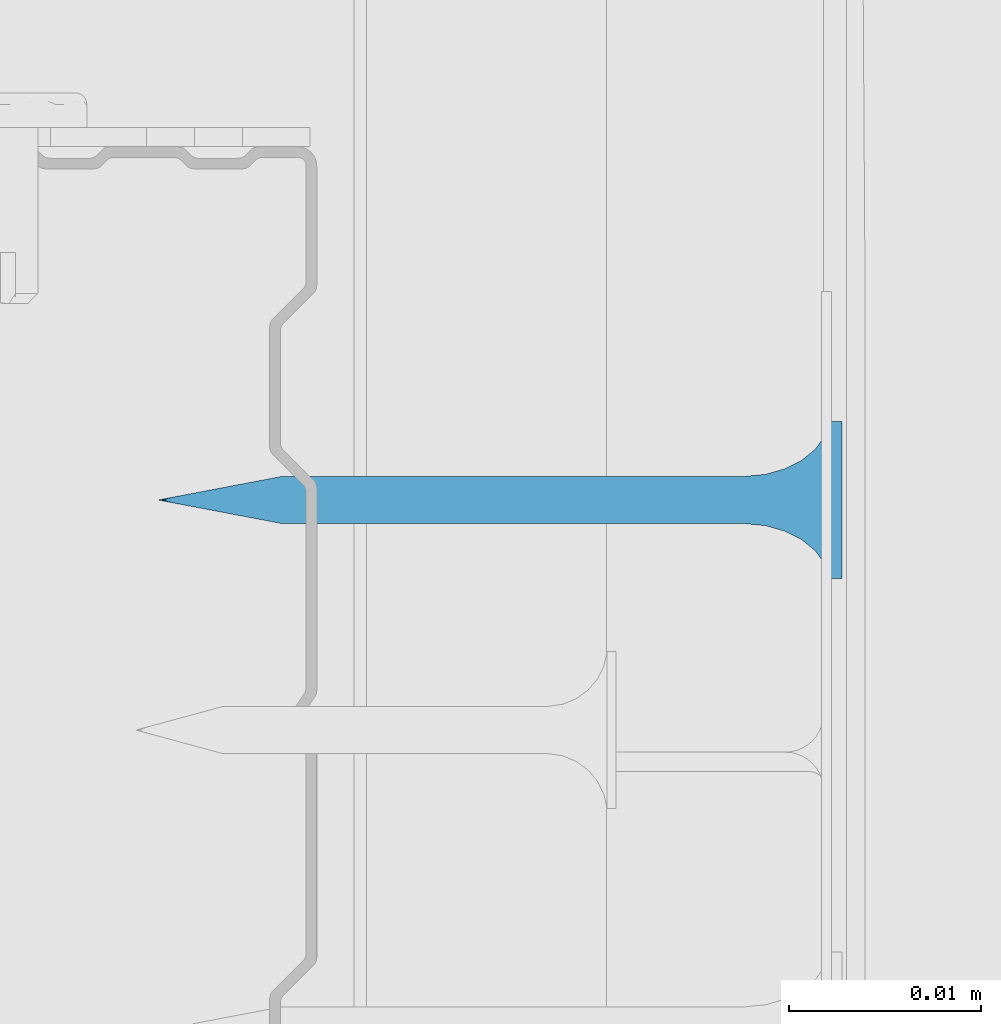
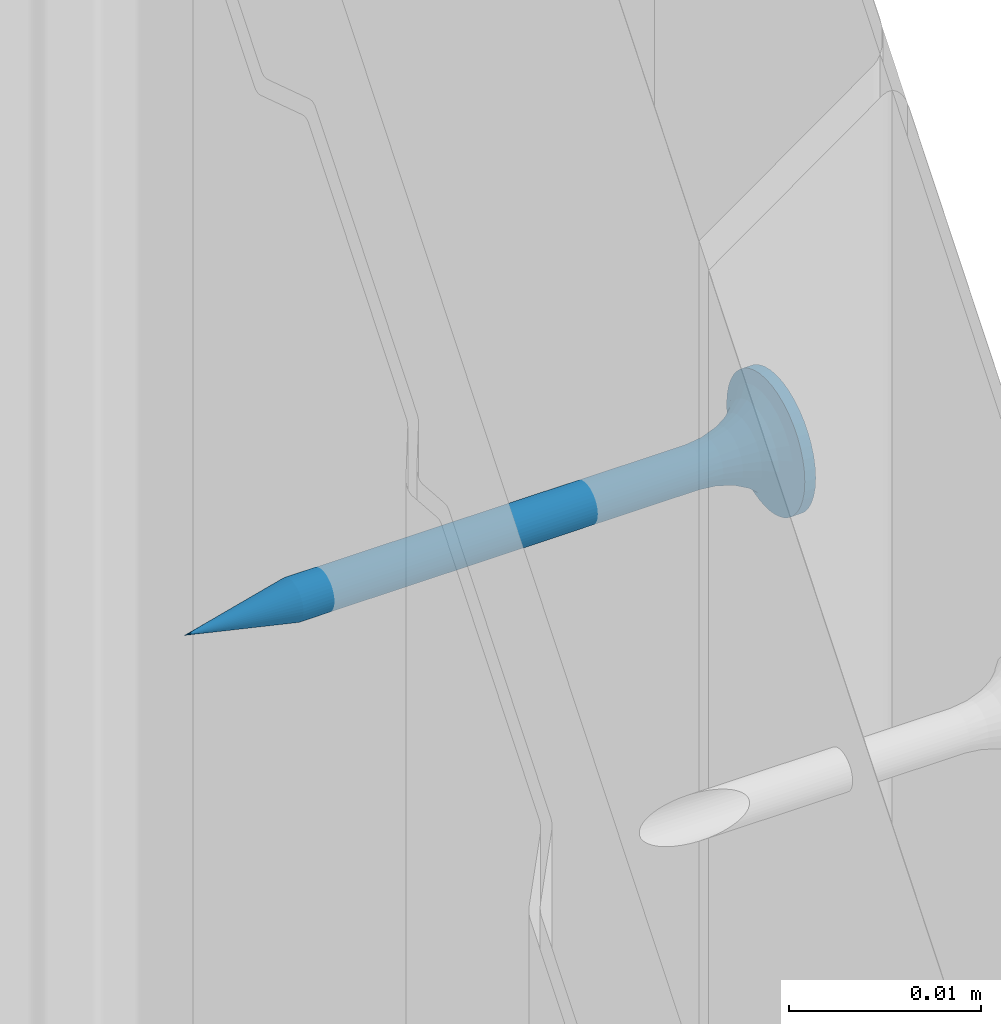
# One storey, part 19 of 67: 1 wall.
"""IFC2X3 building model written with IfcOpenShell, lengths in millimetres."""

from ifc_helpers import new_model, si_unit, frame, origin_with_axes, place, context, subcontext, project, spatial, faceted_brep, material, type_object, element, save


model = new_model("IFC2X3")

# Units and contexts
model_context = context("Model", 3, world=origin_with_axes())
body_context = subcontext(model_context, "Body", "Model", "MODEL_VIEW")
ifc_project = project(units=[si_unit("LENGTHUNIT", "METRE", prefix="MILLI"), si_unit("AREAUNIT", "SQUARE_METRE"), si_unit("VOLUMEUNIT", "CUBIC_METRE")], contexts=[model_context])

# Site, building, storey
site_placement = place(None, frame((2152.14102611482, 674.9749105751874, 57.61556563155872), z_axis=(0.0, 0.0, 1.0), x_axis=(-1.1102230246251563e-16, 1.0, 0.0)))
site = spatial("IfcSite", under=ifc_project, at=site_placement, Name="Default Site", CompositionType="ELEMENT")
building_placement = place(site_placement, origin_with_axes())
building = spatial("IfcBuilding", under=site, at=building_placement, Name="Default Building", CompositionType="ELEMENT")
storey_placement = place(building_placement, origin_with_axes())
storey = spatial("IfcBuildingStorey", under=building, at=storey_placement, Name="Default Building Storey", CompositionType="ELEMENT", Elevation=57.61556563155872)

# Wall
ifc_material = material(Name="Default")
wall_type = type_object("IfcWallType", Name="Wkręt RIGIPS TN 35#46", PredefinedType="NOTDEFINED")
wall_placement = place(storey_placement, frame((2987.097325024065, 6749.678129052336, 53.06211053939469), z_axis=(0.0, 0.0, 1.0), x_axis=(1.0, 0.0, 0.0)))
element("IfcWall", 1, at=wall_placement, inside=storey, type_object=wall_type, material=ifc_material, Name="Wkręt RIGIPS TN 35", context=body_context, shape_type="Brep", body=[
    faceted_brep([(-141.48753293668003, -4832.598052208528, 555.1619773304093), (-141.48753293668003, -4833.259714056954, 555.1619773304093), (-141.5377465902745, -4833.259714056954, 555.8000000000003), (-141.5377465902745, -4832.598052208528, 555.8000000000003), (-141.33812900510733, -4832.598052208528, 554.5396649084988), (-141.33812900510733, -4833.259714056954, 554.5396649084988), (-141.09321328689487, -4832.598052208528, 553.948386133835), (-141.09321328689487, -4833.259714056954, 553.948386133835), (-140.75881656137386, -4832.598052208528, 553.4027002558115), (-140.75881656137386, -4833.259714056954, 553.4027002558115), (-140.34317265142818, -4833.259714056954, 552.9160436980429), (-140.45417279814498, -4832.598052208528, 553.0314906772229), (-139.8565160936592, -4833.259714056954, 552.5003997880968), (-140.1080097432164, -4832.598052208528, 552.6986613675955), (-139.72512626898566, -4832.598052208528, 552.4088260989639), (-139.31083021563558, -4833.259714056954, 552.1660030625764), (-139.31083021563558, -4832.598052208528, 552.1660030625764), (-138.71955144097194, -4833.259714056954, 551.9210873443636), (-138.87086516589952, -4832.598052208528, 551.9735585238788), (-138.41133029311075, -4832.598052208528, 551.8341602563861), (-138.0972390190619, -4833.259714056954, 551.7716834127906), (-137.9385961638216, -4832.598052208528, 551.7497405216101), (-137.45921634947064, -4833.259714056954, 551.7214697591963), (-137.45921634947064, -4832.598052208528, 551.7214697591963), (-136.82119367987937, -4832.598052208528, 551.7716834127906), (-136.82119367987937, -4833.259714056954, 551.7716834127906), (-136.19888125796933, -4832.598052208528, 551.9210873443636), (-136.19888125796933, -4833.259714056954, 551.9210873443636), (-135.6076024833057, -4832.598052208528, 552.1660030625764), (-135.6076024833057, -4833.259714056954, 552.1660030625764), (-135.06191660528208, -4832.598052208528, 552.5003997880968), (-135.06191660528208, -4833.259714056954, 552.5003997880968), (-134.57526004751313, -4832.598052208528, 552.9160436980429), (-134.57526004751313, -4833.259714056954, 552.9160436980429), (-134.1596161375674, -4832.598052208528, 553.4027002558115), (-134.1596161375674, -4833.259714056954, 553.4027002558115), (-133.8252194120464, -4832.598052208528, 553.948386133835), (-133.8252194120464, -4833.259714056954, 553.948386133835), (-133.58030369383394, -4832.598052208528, 554.5396649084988), (-133.58030369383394, -4833.259714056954, 554.5396649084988), (-133.3806861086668, -4833.259714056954, 555.8000000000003), (-133.3806861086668, -4832.598052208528, 555.8000000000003), (-133.43089976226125, -4832.598052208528, 556.4380226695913), (-133.43089976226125, -4833.259714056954, 556.4380226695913), (-133.43089976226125, -4833.259714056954, 555.1619773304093), (-133.43089976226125, -4832.598052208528, 555.1619773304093), (-133.58030369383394, -4832.598052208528, 557.0603350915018), (-133.58030369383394, -4833.259714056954, 557.0603350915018), (-133.8252194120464, -4832.598052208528, 557.6516138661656), (-133.8252194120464, -4833.259714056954, 557.6516138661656), (-134.1596161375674, -4832.598052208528, 558.1972997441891), (-134.1596161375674, -4833.259714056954, 558.1972997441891), (-134.57526004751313, -4832.598052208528, 558.6839563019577), (-134.57526004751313, -4833.259714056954, 558.6839563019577), (-135.06191660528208, -4832.598052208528, 559.0996002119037), (-135.06191660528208, -4833.259714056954, 559.0996002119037), (-135.6076024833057, -4832.598052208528, 559.4339969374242), (-135.6076024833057, -4833.259714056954, 559.4339969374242), (-136.19888125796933, -4832.598052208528, 559.678912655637), (-136.19888125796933, -4833.259714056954, 559.678912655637), (-136.82119367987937, -4832.598052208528, 559.82831658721), (-136.82119367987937, -4833.259714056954, 559.82831658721), (-137.45921634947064, -4832.598052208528, 559.8785302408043), (-137.45921634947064, -4833.259714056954, 559.8785302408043), (-138.0972390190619, -4832.598052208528, 559.82831658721), (-138.0972390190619, -4833.259714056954, 559.82831658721), (-138.71955144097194, -4832.598052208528, 559.678912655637), (-138.71955144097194, -4833.259714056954, 559.678912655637), (-139.31083021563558, -4832.598052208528, 559.4339969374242), (-139.31083021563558, -4833.259714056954, 559.4339969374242), (-139.8565160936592, -4832.598052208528, 559.0996002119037), (-139.8565160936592, -4833.259714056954, 559.0996002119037), (-140.34317265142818, -4832.598052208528, 558.6839563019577), (-140.34317265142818, -4833.259714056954, 558.6839563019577), (-140.75881656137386, -4832.598052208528, 558.1972997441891), (-140.75881656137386, -4833.259714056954, 558.1972997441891), (-141.09321328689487, -4832.598052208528, 557.6516138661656), (-141.09321328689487, -4833.259714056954, 557.6516138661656), (-141.33812900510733, -4832.598052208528, 557.0603350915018), (-141.33812900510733, -4833.259714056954, 557.0603350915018), (-141.48753293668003, -4832.598052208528, 556.4380226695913), (-141.48753293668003, -4833.259714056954, 556.4380226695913), (-137.65172779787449, -4828.2062944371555, 554.5845305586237), (-137.45921634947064, -4828.2062944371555, 554.5693795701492), (-137.8060615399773, -4829.281368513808, 554.5055561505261), (-137.45921634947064, -4829.281368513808, 554.4598930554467), (-137.83949898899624, -4828.2062944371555, 554.6296104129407), (-138.12926982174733, -4829.281368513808, 554.6394333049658), (-138.01790634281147, -4828.2062944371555, 554.7035091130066), (-138.1825568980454, -4828.2062944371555, 554.8044072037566), (-138.40681506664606, -4829.281368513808, 554.8524012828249), (-138.3293964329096, -4828.2062944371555, 554.9298199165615), (-138.45480914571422, -4828.2062944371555, 555.0766594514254), (-138.6197830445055, -4829.281368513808, 555.1299465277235), (-138.5557072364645, -4828.2062944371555, 555.2413100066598), (-138.753660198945, -4829.281368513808, 555.4531548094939), (-138.62960593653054, -4828.2062944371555, 555.4197173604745), (-138.67468579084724, -4828.2062944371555, 555.6074885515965), (-138.79932329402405, -4829.281368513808, 555.7999999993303), (-138.68983677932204, -4828.2062944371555, 555.8000000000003), (-138.67468579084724, -4828.2062944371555, 555.9925114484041), (-138.753660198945, -4829.281368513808, 556.1468451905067), (-138.62960593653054, -4828.2062944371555, 556.1802826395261), (-138.6197830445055, -4829.281368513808, 556.4700534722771), (-138.5557072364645, -4828.2062944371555, 556.3586899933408), (-138.45480914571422, -4828.2062944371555, 556.5233405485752), (-138.40681506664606, -4829.281368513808, 556.7475987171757), (-138.3293964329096, -4828.2062944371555, 556.670180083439), (-138.1825568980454, -4828.2062944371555, 556.795592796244), (-138.12926982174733, -4829.281368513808, 556.9605666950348), (-138.01790634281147, -4828.2062944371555, 556.896490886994), (-137.8060615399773, -4829.281368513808, 557.0944438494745), (-137.83949898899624, -4828.2062944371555, 556.9703895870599), (-137.65172779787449, -4828.2062944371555, 557.0154694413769), (-137.45921634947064, -4829.281368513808, 557.1401069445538), (-137.45921634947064, -4828.2062944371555, 557.0306204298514), (-137.26670490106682, -4828.2062944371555, 557.0154694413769), (-137.11237115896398, -4829.281368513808, 557.0944438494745), (-137.07893370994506, -4828.2062944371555, 556.9703895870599), (-136.78916287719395, -4829.281368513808, 556.9605666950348), (-136.9005263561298, -4828.2062944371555, 556.896490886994), (-136.7358758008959, -4828.2062944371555, 556.795592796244), (-136.5116176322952, -4829.281368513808, 556.7475987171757), (-136.58903626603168, -4828.2062944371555, 556.670180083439), (-136.46362355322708, -4828.2062944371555, 556.5233405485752), (-136.2986496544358, -4829.281368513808, 556.4700534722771), (-136.36272546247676, -4828.2062944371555, 556.3586899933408), (-136.16477249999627, -4829.281368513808, 556.1468451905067), (-136.28882676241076, -4828.2062944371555, 556.1802826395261), (-136.24374690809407, -4828.2062944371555, 555.9925114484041), (-136.11910940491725, -4829.281368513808, 555.7999999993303), (-136.22859591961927, -4828.2062944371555, 555.8000000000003), (-136.24374690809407, -4828.2062944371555, 555.6074885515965), (-136.16477249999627, -4829.281368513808, 555.4531548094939), (-136.28882676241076, -4828.2062944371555, 555.4197173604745), (-136.2986496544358, -4829.281368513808, 555.1299465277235), (-136.36272546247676, -4828.2062944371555, 555.2413100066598), (-136.46362355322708, -4828.2062944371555, 555.0766594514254), (-136.5116176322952, -4829.281368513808, 554.8524012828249), (-136.58903626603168, -4828.2062944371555, 554.9298199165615), (-136.7358758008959, -4828.2062944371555, 554.8044072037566), (-136.78916287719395, -4829.281368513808, 554.6394333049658), (-136.9005263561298, -4828.2062944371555, 554.7035091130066), (-137.11237115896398, -4829.281368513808, 554.5055561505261), (-137.07893370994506, -4828.2062944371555, 554.6296104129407), (-137.26670490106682, -4828.2062944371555, 554.5845305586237), (-137.45921634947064, -4830.288222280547, 554.1737111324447), (-137.88013087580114, -4830.288222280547, 554.2291255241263), (-138.2723607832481, -4830.288222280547, 554.3915925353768), (-138.60917621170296, -4830.288222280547, 554.6500401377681), (-138.8676238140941, -4830.288222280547, 554.9868555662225), (-139.03009082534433, -4830.288222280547, 555.37908547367), (-139.08550521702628, -4830.288222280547, 555.7999999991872), (-139.03009082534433, -4830.288222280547, 556.2209145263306), (-138.8676238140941, -4830.288222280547, 556.6131444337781), (-138.60917621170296, -4830.288222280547, 556.9499598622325), (-138.2723607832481, -4830.288222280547, 557.2084074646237), (-137.88013087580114, -4830.288222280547, 557.3708744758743), (-137.45921634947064, -4830.288222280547, 557.4262888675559), (-137.03830182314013, -4830.288222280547, 557.3708744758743), (-136.64607191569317, -4830.288222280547, 557.2084074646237), (-136.30925648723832, -4830.288222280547, 556.9499598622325), (-136.05080888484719, -4830.288222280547, 556.6131444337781), (-135.88834187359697, -4830.288222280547, 556.2209145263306), (-135.832927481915, -4830.288222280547, 555.7999999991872), (-135.88834187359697, -4830.288222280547, 555.37908547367), (-136.05080888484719, -4830.288222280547, 554.9868555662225), (-136.30925648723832, -4830.288222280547, 554.6500401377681), (-136.64607191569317, -4830.288222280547, 554.3915925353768), (-137.03830182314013, -4830.288222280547, 554.2291255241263), (-137.45921634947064, -4831.168773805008, 553.7273430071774), (-137.99565943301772, -4831.168773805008, 553.7979670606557), (-138.49554484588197, -4831.168773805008, 554.0050264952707), (-138.92480608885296, -4831.168773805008, 554.334410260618), (-139.25418985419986, -4831.168773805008, 554.7636715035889), (-139.46124928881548, -4831.168773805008, 555.2635569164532), (-139.53187334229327, -4831.168773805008, 555.7999999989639), (-139.46124928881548, -4831.168773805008, 556.3364430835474), (-139.25418985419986, -4831.168773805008, 556.8363284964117), (-138.92480608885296, -4831.168773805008, 557.2655897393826), (-138.49554484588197, -4831.168773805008, 557.5949735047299), (-137.99565943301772, -4831.168773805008, 557.8020329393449), (-137.45921634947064, -4831.168773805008, 557.8726569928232), (-136.92277326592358, -4831.168773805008, 557.8020329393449), (-136.42288785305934, -4831.168773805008, 557.5949735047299), (-135.9936266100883, -4831.168773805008, 557.2655897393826), (-135.6642428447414, -4831.168773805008, 556.8363284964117), (-135.45718341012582, -4831.168773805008, 556.3364430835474), (-135.386559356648, -4831.168773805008, 555.7999999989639), (-135.45718341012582, -4831.168773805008, 555.2635569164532), (-135.6642428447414, -4831.168773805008, 554.7636715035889), (-135.9936266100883, -4831.168773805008, 554.334410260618), (-136.42288785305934, -4831.168773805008, 554.0050264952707), (-136.92277326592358, -4831.168773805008, 553.7979670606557), (-137.45921634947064, -4831.872222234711, 553.1465392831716), (-138.14598252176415, -4831.872222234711, 553.2369539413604), (-138.78594670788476, -4831.872222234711, 553.5020355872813), (-139.33549641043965, -4831.872222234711, 553.923719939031), (-139.75718076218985, -4831.872222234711, 554.473269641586), (-140.02226240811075, -4831.872222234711, 555.1132338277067), (-140.11267706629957, -4831.872222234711, 555.7999999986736), (-140.02226240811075, -4831.872222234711, 556.4867661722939), (-139.75718076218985, -4831.872222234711, 557.1267303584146), (-139.33549641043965, -4831.872222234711, 557.6762800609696), (-138.78594670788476, -4831.872222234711, 558.0979644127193), (-138.14598252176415, -4831.872222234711, 558.3630460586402), (-137.45921634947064, -4831.872222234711, 558.453460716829), (-136.77245017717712, -4831.872222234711, 558.3630460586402), (-136.13248599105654, -4831.872222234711, 558.0979644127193), (-135.58293628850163, -4831.872222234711, 557.6762800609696), (-135.16125193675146, -4831.872222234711, 557.1267303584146), (-134.89617029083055, -4831.872222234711, 556.4867661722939), (-134.8057556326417, -4831.872222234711, 555.7999999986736), (-134.89617029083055, -4831.872222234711, 555.1132338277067), (-135.16125193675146, -4831.872222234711, 554.473269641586), (-135.58293628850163, -4831.872222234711, 553.923719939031), (-136.13248599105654, -4831.872222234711, 553.5020355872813), (-136.77245017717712, -4831.872222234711, 553.2369539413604), (-137.45921634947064, -4832.357990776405, 552.4648055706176), (-138.3224281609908, -4832.357990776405, 552.5784495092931), (-139.12681356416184, -4832.357990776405, 552.9116369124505), (-139.8175549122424, -4832.357990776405, 553.4416614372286), (-140.34757943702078, -4832.357990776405, 554.132402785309), (-140.680766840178, -4832.357990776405, 554.9367881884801), (-140.79441077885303, -4832.357990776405, 555.7999999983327), (-140.680766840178, -4832.357990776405, 556.6632118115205), (-140.34757943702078, -4832.357990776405, 557.4675972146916), (-139.8175549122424, -4832.357990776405, 558.158338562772), (-139.12681356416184, -4832.357990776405, 558.6883630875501), (-138.3224281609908, -4832.357990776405, 559.0215504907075), (-137.45921634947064, -4832.357990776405, 559.135194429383), (-136.5960045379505, -4832.357990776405, 559.0215504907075), (-135.79161913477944, -4832.357990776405, 558.6883630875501), (-135.10087778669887, -4832.357990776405, 558.158338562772), (-134.5708532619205, -4832.357990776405, 557.4675972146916), (-134.23766585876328, -4832.357990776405, 556.6632118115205), (-134.12402192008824, -4832.357990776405, 555.7999999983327), (-134.23766585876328, -4832.357990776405, 554.9367881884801), (-134.5708532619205, -4832.357990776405, 554.132402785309), (-135.10087778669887, -4832.357990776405, 553.4416614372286), (-135.79161913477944, -4832.357990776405, 552.9116369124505), (-136.5960045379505, -4832.357990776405, 552.5784495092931), (-138.67468579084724, -4804.093757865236, 555.6074885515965), (-138.68983677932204, -4804.093757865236, 555.8000000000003), (-138.62960593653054, -4804.093757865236, 555.4197173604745), (-138.5557072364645, -4804.093757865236, 555.2413100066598), (-138.45480914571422, -4804.093757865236, 555.0766594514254), (-138.3293964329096, -4804.093757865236, 554.9298199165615), (-138.1825568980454, -4804.093757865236, 554.8044072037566), (-138.01790634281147, -4804.093757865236, 554.7035091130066), (-137.83949898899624, -4804.093757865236, 554.6296104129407), (-137.65172779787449, -4804.093757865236, 554.5845305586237), (-137.45921634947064, -4804.093757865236, 554.5693795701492), (-137.26670490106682, -4804.093757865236, 554.5845305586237), (-137.07893370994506, -4804.093757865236, 554.6296104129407), (-136.9005263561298, -4804.093757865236, 554.7035091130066), (-136.7358758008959, -4804.093757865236, 554.8044072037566), (-136.58903626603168, -4804.093757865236, 554.9298199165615), (-136.46362355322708, -4804.093757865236, 555.0766594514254), (-136.36272546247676, -4804.093757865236, 555.2413100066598), (-136.28882676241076, -4804.093757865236, 555.4197173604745), (-136.22859591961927, -4804.093757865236, 555.8000000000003), (-136.24374690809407, -4804.093757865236, 555.9925114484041), (-136.24374690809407, -4804.093757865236, 555.6074885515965), (-136.28882676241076, -4804.093757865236, 556.1802826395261), (-136.36272546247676, -4804.093757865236, 556.3586899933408), (-136.46362355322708, -4804.093757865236, 556.5233405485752), (-136.58903626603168, -4804.093757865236, 556.670180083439), (-136.7358758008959, -4804.093757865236, 556.795592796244), (-136.9005263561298, -4804.093757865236, 556.896490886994), (-137.07893370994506, -4804.093757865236, 556.9703895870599), (-137.26670490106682, -4804.093757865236, 557.0154694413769), (-137.45921634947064, -4804.093757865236, 557.0306204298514), (-137.65172779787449, -4804.093757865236, 557.0154694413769), (-137.83949898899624, -4804.093757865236, 556.9703895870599), (-138.01790634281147, -4804.093757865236, 556.896490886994), (-138.1825568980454, -4804.093757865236, 556.795592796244), (-138.3293964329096, -4804.093757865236, 556.670180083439), (-138.45480914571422, -4804.093757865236, 556.5233405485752), (-138.5557072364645, -4804.093757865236, 556.3586899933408), (-138.62960593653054, -4804.093757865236, 556.1802826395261), (-138.67468579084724, -4804.093757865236, 555.9925114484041), (-137.45921634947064, -4797.627062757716, 555.8000000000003), (-139.95921629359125, -4833.259714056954, 555.2999999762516), (-139.95921629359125, -4833.259714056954, 556.300000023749), (-137.95921637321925, -4833.259714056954, 556.300000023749), (-137.95921637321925, -4833.259714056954, 558.2999999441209), (-136.95921632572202, -4833.259714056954, 558.2999999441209), (-136.95921632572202, -4833.259714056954, 556.300000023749), (-134.95921640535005, -4833.259714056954, 556.300000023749), (-134.95921640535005, -4833.259714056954, 555.2999999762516), (-136.95921632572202, -4833.259714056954, 555.2999999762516), (-136.95921632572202, -4833.259714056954, 553.3000000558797), (-137.95921637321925, -4833.259714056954, 553.3000000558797), (-137.95921637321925, -4833.259714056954, 555.2999999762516), (-136.95921632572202, -4832.888378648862, 558.2999999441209), (-137.95921637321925, -4832.888378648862, 558.2999999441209), (-137.95921637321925, -4832.888378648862, 556.300000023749), (-139.95921629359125, -4832.888378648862, 556.300000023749), (-139.95921629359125, -4832.888378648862, 555.2999999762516), (-137.95921637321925, -4832.888378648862, 555.2999999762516), (-137.95921637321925, -4832.888378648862, 553.3000000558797), (-136.95921632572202, -4832.888378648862, 553.3000000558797), (-136.95921632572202, -4832.888378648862, 555.2999999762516), (-134.95921640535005, -4832.888378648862, 555.2999999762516), (-134.95921640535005, -4832.888378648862, 556.300000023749), (-136.95921632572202, -4832.888378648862, 556.300000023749)], [[[0, 1, 2, 3]], [[1, 0, 4, 5]], [[5, 4, 6, 7]], [[8, 9, 7, 6]], [[8, 10, 9]], [[8, 11, 10]], [[12, 11, 13]], [[12, 10, 11]], [[13, 14, 12]], [[14, 15, 12]], [[14, 16, 15]], [[17, 16, 18]], [[17, 15, 16]], [[18, 19, 17]], [[20, 19, 21]], [[20, 17, 19]], [[21, 22, 20]], [[21, 23, 22]], [[24, 25, 22, 23]], [[25, 24, 26, 27]], [[27, 26, 28, 29]], [[30, 31, 29, 28]], [[31, 30, 32, 33]], [[34, 35, 33, 32]], [[35, 34, 36, 37]], [[37, 36, 38, 39]], [[40, 41, 42, 43]], [[44, 45, 41, 40]], [[45, 44, 39, 38]], [[43, 42, 46, 47]], [[47, 46, 48, 49]], [[50, 51, 49, 48]], [[51, 50, 52, 53]], [[54, 55, 53, 52]], [[55, 54, 56, 57]], [[57, 56, 58, 59]], [[60, 61, 59, 58]], [[61, 60, 62, 63]], [[64, 65, 63, 62]], [[65, 64, 66, 67]], [[67, 66, 68, 69]], [[70, 71, 69, 68]], [[71, 70, 72, 73]], [[74, 75, 73, 72]], [[75, 74, 76, 77]], [[77, 76, 78, 79]], [[80, 81, 79, 78]], [[81, 80, 3, 2]], [[82, 83, 84]], [[83, 85, 84]], [[84, 86, 82]], [[84, 87, 88, 86]], [[89, 88, 87]], [[87, 90, 89]], [[90, 91, 89]], [[92, 91, 93]], [[91, 90, 93]], [[93, 94, 92]], [[93, 95, 96, 94]], [[97, 96, 95]], [[95, 98, 97]], [[98, 99, 97]], [[100, 99, 101]], [[99, 98, 101]], [[101, 102, 100]], [[101, 103, 104, 102]], [[105, 104, 103]], [[103, 106, 105]], [[106, 107, 105]], [[108, 107, 109]], [[107, 106, 109]], [[109, 110, 108]], [[109, 111, 112, 110]], [[113, 112, 111]], [[111, 114, 113]], [[114, 115, 113]], [[116, 115, 117]], [[115, 114, 117]], [[117, 118, 116]], [[117, 119, 120, 118]], [[121, 120, 119]], [[119, 122, 121]], [[122, 123, 121]], [[124, 123, 125]], [[123, 122, 125]], [[125, 126, 124]], [[125, 127, 128, 126]], [[129, 128, 127]], [[127, 130, 129]], [[130, 131, 129]], [[132, 131, 133]], [[131, 130, 133]], [[133, 134, 132]], [[133, 135, 136, 134]], [[137, 136, 135]], [[135, 138, 137]], [[138, 139, 137]], [[140, 139, 141]], [[139, 138, 141]], [[141, 142, 140]], [[141, 143, 144, 142]], [[145, 144, 143]], [[143, 85, 145]], [[85, 83, 145]], [[146, 147, 84, 85]], [[84, 147, 148, 87]], [[87, 148, 149, 90]], [[90, 149, 150, 93]], [[93, 150, 151, 95]], [[95, 151, 152, 98]], [[98, 152, 153, 101]], [[101, 153, 154, 103]], [[103, 154, 155, 106]], [[106, 155, 156, 109]], [[109, 156, 157, 111]], [[111, 157, 158, 114]], [[114, 158, 159, 117]], [[117, 159, 160, 119]], [[119, 160, 161, 122]], [[122, 161, 162, 125]], [[125, 162, 163, 127]], [[127, 163, 164, 130]], [[130, 164, 165, 133]], [[133, 165, 166, 135]], [[135, 166, 167, 138]], [[138, 167, 168, 141]], [[141, 168, 169, 143]], [[143, 169, 146, 85]], [[170, 171, 147, 146]], [[147, 171, 172, 148]], [[148, 172, 173, 149]], [[149, 173, 174, 150]], [[150, 174, 175, 151]], [[151, 175, 176, 152]], [[152, 176, 177, 153]], [[153, 177, 178, 154]], [[154, 178, 179, 155]], [[155, 179, 180, 156]], [[156, 180, 181, 157]], [[157, 181, 182, 158]], [[158, 182, 183, 159]], [[159, 183, 184, 160]], [[160, 184, 185, 161]], [[161, 185, 186, 162]], [[162, 186, 187, 163]], [[163, 187, 188, 164]], [[164, 188, 189, 165]], [[165, 189, 190, 166]], [[166, 190, 191, 167]], [[167, 191, 192, 168]], [[168, 192, 193, 169]], [[169, 193, 170, 146]], [[194, 195, 171, 170]], [[171, 195, 196, 172]], [[172, 196, 197, 173]], [[173, 197, 198, 174]], [[174, 198, 199, 175]], [[175, 199, 200, 176]], [[176, 200, 201, 177]], [[177, 201, 202, 178]], [[178, 202, 203, 179]], [[179, 203, 204, 180]], [[180, 204, 205, 181]], [[181, 205, 206, 182]], [[182, 206, 207, 183]], [[183, 207, 208, 184]], [[184, 208, 209, 185]], [[185, 209, 210, 186]], [[186, 210, 211, 187]], [[187, 211, 212, 188]], [[188, 212, 213, 189]], [[189, 213, 214, 190]], [[190, 214, 215, 191]], [[191, 215, 216, 192]], [[192, 216, 217, 193]], [[193, 217, 194, 170]], [[21, 19, 218]], [[19, 219, 218]], [[218, 23, 21]], [[218, 219, 195, 194]], [[18, 16, 219]], [[16, 220, 219]], [[219, 19, 18]], [[195, 219, 220, 196]], [[13, 11, 221]], [[14, 13, 220]], [[13, 221, 220]], [[220, 16, 14]], [[196, 220, 221, 197]], [[8, 6, 222]], [[222, 221, 8]], [[221, 11, 8]], [[197, 221, 222, 198]], [[4, 223, 222, 6]], [[198, 222, 223, 199]], [[0, 3, 223]], [[3, 224, 223]], [[223, 4, 0]], [[199, 223, 224, 200]], [[80, 78, 225]], [[225, 224, 80]], [[224, 3, 80]], [[200, 224, 225, 201]], [[78, 76, 226, 225]], [[201, 225, 226, 202]], [[74, 72, 226]], [[72, 227, 226]], [[226, 76, 74]], [[202, 226, 227, 203]], [[70, 68, 228]], [[228, 227, 70]], [[227, 72, 70]], [[203, 227, 228, 204]], [[68, 66, 229, 228]], [[204, 228, 229, 205]], [[64, 62, 229]], [[62, 230, 229]], [[229, 66, 64]], [[205, 229, 230, 206]], [[60, 58, 231]], [[231, 230, 60]], [[230, 62, 60]], [[206, 230, 231, 207]], [[58, 56, 232, 231]], [[207, 231, 232, 208]], [[54, 52, 232]], [[52, 233, 232]], [[232, 56, 54]], [[208, 232, 233, 209]], [[50, 48, 234]], [[234, 233, 50]], [[233, 52, 50]], [[209, 233, 234, 210]], [[48, 46, 235, 234]], [[210, 234, 235, 211]], [[42, 41, 235]], [[41, 236, 235]], [[235, 46, 42]], [[211, 235, 236, 212]], [[45, 38, 237]], [[237, 236, 45]], [[236, 41, 45]], [[212, 236, 237, 213]], [[36, 238, 237, 38]], [[213, 237, 238, 214]], [[34, 32, 238]], [[32, 239, 238]], [[238, 36, 34]], [[214, 238, 239, 215]], [[30, 28, 240]], [[240, 239, 30]], [[239, 32, 30]], [[215, 239, 240, 216]], [[26, 241, 240, 28]], [[216, 240, 241, 217]], [[217, 241, 218, 194]], [[24, 23, 241]], [[23, 218, 241]], [[241, 26, 24]], [[242, 97, 99, 243]], [[97, 242, 244, 96]], [[96, 244, 245, 94]], [[246, 92, 94, 245]], [[92, 246, 247, 91]], [[248, 89, 91, 247]], [[89, 248, 249, 88]], [[88, 249, 250, 86]], [[251, 82, 86, 250]], [[82, 251, 252, 83]], [[253, 145, 83, 252]], [[145, 253, 254, 144]], [[144, 254, 255, 142]], [[256, 140, 142, 255]], [[140, 256, 257, 139]], [[258, 137, 139, 257]], [[137, 258, 259, 136]], [[136, 259, 260, 134]], [[131, 261, 262, 129]], [[132, 263, 261, 131]], [[263, 132, 134, 260]], [[129, 262, 264, 128]], [[128, 264, 265, 126]], [[266, 124, 126, 265]], [[124, 266, 267, 123]], [[268, 121, 123, 267]], [[121, 268, 269, 120]], [[120, 269, 270, 118]], [[271, 116, 118, 270]], [[116, 271, 272, 115]], [[273, 113, 115, 272]], [[113, 273, 274, 112]], [[112, 274, 275, 110]], [[276, 108, 110, 275]], [[108, 276, 277, 107]], [[278, 105, 107, 277]], [[105, 278, 279, 104]], [[104, 279, 280, 102]], [[281, 100, 102, 280]], [[100, 281, 243, 99]], [[282, 244, 242]], [[242, 243, 282]], [[282, 245, 244]], [[282, 247, 246]], [[246, 245, 282]], [[282, 249, 248]], [[248, 247, 282]], [[282, 250, 249]], [[282, 252, 251]], [[251, 250, 282]], [[282, 254, 253]], [[253, 252, 282]], [[282, 255, 254]], [[282, 257, 256]], [[256, 255, 282]], [[282, 259, 258]], [[258, 257, 282]], [[282, 260, 259]], [[282, 261, 263]], [[263, 260, 282]], [[282, 264, 262]], [[262, 261, 282]], [[282, 265, 264]], [[282, 267, 266]], [[266, 265, 282]], [[282, 269, 268]], [[268, 267, 282]], [[282, 270, 269]], [[282, 272, 271]], [[271, 270, 282]], [[282, 274, 273]], [[273, 272, 282]], [[282, 275, 274]], [[282, 277, 276]], [[276, 275, 282]], [[282, 279, 278]], [[278, 277, 282]], [[282, 280, 279]], [[282, 243, 281]], [[281, 280, 282]], [[75, 77, 79, 81, 2, 1, 5, 7, 9, 10, 12, 15, 17, 20, 22, 25, 27, 29, 31, 33, 35, 37, 39, 44, 40, 43, 47, 49, 51, 53, 55, 57, 59, 61, 63, 65, 67, 69, 71, 73], [283, 284, 285, 286, 287, 288, 289, 290, 291, 292, 293, 294]], [[295, 296, 297, 298, 299, 300, 301, 302, 303, 304, 305, 306]], [[303, 291, 290, 304]], [[304, 290, 289, 305]], [[305, 289, 288, 306]], [[306, 288, 287, 295]], [[295, 287, 286, 296]], [[296, 286, 285, 297]], [[297, 285, 284, 298]], [[298, 284, 283, 299]], [[299, 283, 294, 300]], [[300, 294, 293, 301]], [[301, 293, 292, 302]], [[302, 292, 291, 303]]]),
])

save(model, "model.ifc")
